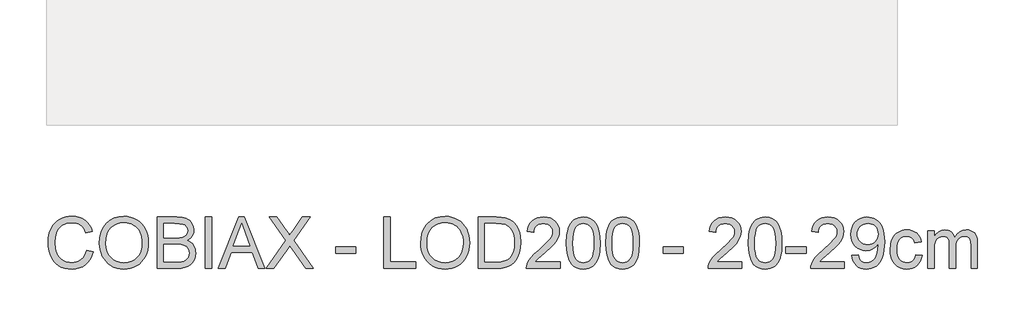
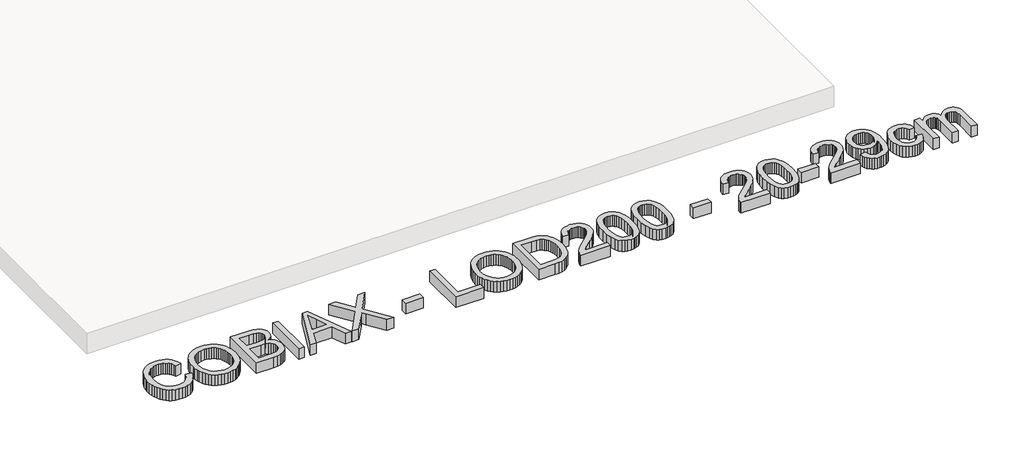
# One storey, part 2 of 6: 1 proxy.
"""IFC4 building model written with IfcOpenShell, lengths in millimetres."""

from ifc_helpers import new_model, si_unit, origin, origin_with_axes, place, context, project, spatial, polyline, outline, extrude, element, save

model = new_model("IFC4")

# Units and contexts
model_context = context("Model", 3, world=origin())
ifc_project = project(units=[si_unit("LENGTHUNIT", "METRE", prefix="MILLI")], contexts=[model_context])

# Site, building, storey
site = spatial("IfcSite", under=ifc_project)
building = spatial("IfcBuilding", under=site)
storey = spatial("IfcBuildingStorey", under=building, Name="COBIAX Slabs", Elevation=0.0)

# Proxy
placement = place(None, origin())
element("IfcBuildingElementProxy", 1, Name="600mm Arial", ObjectType="600mm Arial", at=placement, inside=storey, context=model_context, shape_type="SweptSolid", body=[
    extrude(outline(polyline([(-5201.7846047, -6620.9127725), (-5126.4423721, -6640.3369419), (-5141.35079, -6687.1913125), (-5161.2072206, -6728.13198), (-5186.0116642, -6763.1589445), (-5215.7641205, -6792.2722059), (-5249.7932051, -6815.1590645), (-5287.4275332, -6831.5068207), (-5328.6671048, -6841.3154744), (-5373.5119201, -6844.5850256), (-5419.4557827, -6842.1110192), (-5460.902288, -6834.6889999), (-5497.8514359, -6822.3189678), (-5530.3032264, -6805.0009229), (-5558.7037164, -6782.9923826), (-5583.4989629, -6756.5508642), (-5604.6889658, -6725.6763677), (-5622.2737252, -6690.3688932), (-5636.0830956, -6652.155151), (-5645.9469316, -6612.5618512), (-5651.8652332, -6571.588994), (-5653.8380004, -6529.2365793), (-5651.6077158, -6483.7939559), (-5644.916862, -6441.3495707), (-5633.765439, -6401.9034238), (-5618.1534469, -6365.4555151), (-5598.4303734, -6332.6082514), (-5574.9457065, -6303.9640396), (-5547.6994462, -6279.5228795), (-5516.6915926, -6259.2847713), (-5482.9752077, -6243.4152617), (-5447.6033539, -6232.0798977), (-5410.5760311, -6225.2786793), (-5371.8932393, -6223.0116065), (-5328.8004621, -6225.9454655), (-5289.2853373, -6234.7470422), (-5253.3478649, -6249.4163368), (-5220.9880449, -6269.9533491), (-5192.7393062, -6295.8154534), (-5169.1350776, -6326.4600236), (-5150.1753593, -6361.8870597), (-5135.8601512, -6402.0965618), (-5211.2023838, -6420.0492032), (-5223.0665781, -6390.420907), (-5237.3220054, -6365.1060272), (-5253.9686657, -6344.1045638), (-5273.006559, -6327.4165168), (-5294.5460498, -6314.7015953), (-5318.6975028, -6305.6195086), (-5345.4609179, -6300.1702565), (-5374.8362952, -6298.3538392), (-5408.6354535, -6300.3679931), (-5439.5467382, -6306.4104549), (-5467.5701492, -6316.4812245), (-5492.7056865, -6330.5803019), (-5514.6360519, -6348.0730908), (-5533.0439473, -6368.3249946), (-5547.9293725, -6391.3360134), (-5559.2923276, -6417.1061472), (-5573.6949077, -6472.2516583), (-5578.4957678, -6529.0894265), (-5572.8119909, -6598.6927), (-5565.7072699, -6629.9626696), (-5555.7606605, -6658.8781944), (-5542.8112142, -6684.8644589), (-5526.6979829, -6707.3466473), (-5507.4209663, -6726.3247597), (-5484.9801646, -6741.7987961), (-5460.4654281, -6753.8055448), (-5434.9666074, -6762.3817938), (-5408.4837022, -6767.5275432), (-5381.0167128, -6769.242793), (-5348.2614196, -6766.9067423), (-5318.1272857, -6759.8985903), (-5290.614311, -6748.218337), (-5265.7224955, -6731.8659823), (-5244.0404504, -6710.9151027), (-5226.1567869, -6685.4392745), (-5212.071505, -6655.4384978), (-5201.7846047, -6620.9127725)])), origin_with_axes(), (0.0, 0.0, 1.0), 150.0),
    extrude(outline(polyline([(-5051.1001395, -6541.7445672), (-5046.0785503, -6471.0468447), (-5031.0137825, -6408.4609203), (-5005.9058364, -6353.9867939), (-4989.5856714, -6329.7916549), (-4970.7547117, -6307.6244654), (-4927.6665331, -6270.6063397), (-4878.7474247, -6244.1648213), (-4823.9973868, -6228.2999102), (-4763.4164193, -6223.0116065), (-4722.8666263, -6225.49481), (-4684.3585785, -6232.9444204), (-4647.8922757, -6245.3604378), (-4613.467718, -6262.742862), (-4582.0505956, -6284.5674614), (-4554.6065988, -6310.310004), (-4531.1357275, -6339.9704899), (-4511.6379818, -6373.548919), (-4496.3156967, -6410.2819362), (-4485.3712073, -6449.4061864), (-4478.8045137, -6490.9216695), (-4476.6156158, -6534.8283857), (-4478.9194768, -6579.3145159), (-4485.8310598, -6621.3910191), (-4497.3503648, -6661.0578953), (-4513.4773917, -6698.3151443), (-4533.8304631, -6732.178682), (-4558.0279014, -6761.6644239), (-4586.0697064, -6786.7723701), (-4617.9558784, -6807.5025205), (-4652.4310198, -6823.7261165), (-4688.2397335, -6835.3143993), (-4725.3820195, -6842.267369), (-4763.8578777, -6844.5850256), (-4805.1158434, -6842.0236472), (-4844.129729, -6834.339512), (-4880.8995344, -6821.5326201), (-4915.4252597, -6803.6029713), (-4946.8055939, -6781.2449431), (-4974.1392261, -6755.1529126), (-4997.4261564, -6725.3268798), (-5016.6663847, -6691.7668448), (-5031.7311524, -6655.8201753), (-5042.4917008, -6618.8342393), (-5048.9480298, -6580.8090365), (-5051.1001395, -6541.7445672)]), holes=[polyline([(-4975.7579069, -6542.4803312), (-4971.9917149, -6592.4295091), (-4960.6931392, -6636.7684865), (-4941.8621795, -6675.4972636), (-4915.4988361, -6708.6158402), (-4883.4517158, -6735.140132), (-4847.5694257, -6754.0860548), (-4807.8519657, -6765.4536084), (-4764.299336, -6769.242793), (-4720.0017453, -6765.4168202), (-4679.8152359, -6753.938902), (-4643.7398077, -6734.8090382), (-4611.7754608, -6708.027229), (-4585.6052554, -6674.2096766), (-4566.9122515, -6633.9725834), (-4555.6964492, -6587.3159493), (-4551.9578484, -6534.2397745), (-4553.5581351, -6499.7600345), (-4558.3589951, -6467.5427687), (-4566.3604285, -6437.5879773), (-4577.5624353, -6409.8956601), (-4591.8408552, -6384.8291007), (-4609.0715282, -6362.7515824), (-4629.2544541, -6343.6631054), (-4652.3896331, -6327.5636696), (-4677.7596952, -6314.7843688), (-4704.6472705, -6305.6562968), (-4733.0523591, -6300.1794536), (-4762.9749609, -6298.3538392), (-4805.0146759, -6301.8717107), (-4844.0193644, -6312.4253255), (-4879.9890265, -6330.0146834), (-4912.9236621, -6354.6397844), (-4940.4136442, -6387.4870481), (-4960.0493457, -6429.7428937), (-4971.8307666, -6481.4073214), (-4975.7579069, -6542.4803312)])]), origin_with_axes(), (0.0, 0.0, 1.0), 150.0),
    extrude(outline(polyline([(-4373.020046, -6835.1672465), (-4373.020046, -6232.4293856), (-4143.0202226, -6232.4293856), (-4079.7629135, -6236.8623637), (-4030.3747557, -6250.1612978), (-4010.2975958, -6260.2182718), (-3992.5196984, -6272.6572818), (-3977.0410634, -6287.4783277), (-3963.8616909, -6304.6814095), (-3945.8170791, -6342.3525258), (-3939.8022085, -6381.7894757), (-3944.8605859, -6418.0810345), (-3960.0357182, -6452.2020895), (-3985.43797, -6482.0557135), (-4021.1777058, -6505.5449788), (-3998.438, -6515.2386694), (-3978.4850002, -6527.8386278), (-3961.3187066, -6543.3448538), (-3946.9391192, -6561.7573477), (-3935.576164, -6582.5150893), (-3927.4597675, -6605.0570585), (-3922.5899296, -6629.3832555), (-3920.9666503, -6655.4936801), (-3925.3996283, -6697.524198), (-3938.6985625, -6736.5012954), (-3958.5457961, -6769.6474632), (-3982.6236727, -6794.1851923), (-4012.1094146, -6811.9538926), (-4048.1802442, -6824.7929743), (-4092.013384, -6832.5736785), (-4144.7860562, -6835.1672465), (-4373.020046, -6835.1672465)]), holes=[polyline([(-4297.6778134, -6477.2916416), (-4160.0899472, -6477.2916416), (-4111.9709822, -6475.6729608), (-4079.7445194, -6470.8169185), (-4051.6199409, -6459.6516999), (-4031.4048253, -6442.9314633), (-4019.2095371, -6420.9137259), (-4015.1444411, -6393.8560051), (-4018.9336256, -6367.5892307), (-4030.3011793, -6344.7069706), (-4048.7320672, -6326.8462997), (-4073.7112547, -6315.6442929), (-4112.0445586, -6309.7397869), (-4170.5377958, -6307.7716182), (-4297.6778134, -6307.7716182), (-4297.6778134, -6477.2916416)]), polyline([(-4297.6778134, -6759.8250139), (-4143.1673754, -6759.8250139), (-4087.2493121, -6756.8819579), (-4061.2952374, -6750.3520525), (-4039.9396875, -6740.474421), (-4022.5756574, -6726.3293582), (-4008.5961416, -6706.9971594), (-3999.3806976, -6683.3423471), (-3996.3088829, -6656.2294441), (-3999.9141265, -6624.7387453), (-4010.7298571, -6597.6626304), (-4029.6205976, -6576.4910216), (-4057.4508705, -6562.7138409), (-4096.8694263, -6555.1538659), (-4150.5250153, -6552.6338742), (-4297.6778134, -6552.6338742), (-4297.6778134, -6759.8250139)])]), origin_with_axes(), (0.0, 0.0, 1.0), 150.0),
    extrude(outline(polyline([(-3807.9533014, -6835.1672465), (-3807.9533014, -6232.4293856), (-3732.6110688, -6232.4293856), (-3732.6110688, -6835.1672465), (-3807.9533014, -6835.1672465)])), origin_with_axes(), (0.0, 0.0, 1.0), 150.0),
    extrude(outline(polyline([(-3652.1184882, -6835.1672465), (-3411.5236634, -6232.4293856), (-3347.3650434, -6232.4293856), (-3106.7702186, -6835.1672465), (-3186.3798823, -6835.1672465), (-3255.3945446, -6646.811665), (-3503.641315, -6646.811665), (-3572.5088245, -6835.1672465), (-3652.1184882, -6835.1672465)]), holes=[polyline([(-3475.9765889, -6571.4694324), (-3282.9121179, -6571.4694324), (-3337.2115004, -6423.2865647), (-3379.4443534, -6307.7716182), (-3416.9683169, -6410.3371185), (-3475.9765889, -6571.4694324)])]), origin_with_axes(), (0.0, 0.0, 1.0), 150.0),
    extrude(outline(polyline([(-3092.2020916, -6835.1672465), (-2859.8478234, -6506.7222012), (-3054.5309753, -6232.4293856), (-2964.1791572, -6232.4293856), (-2854.5503227, -6386.7926708), (-2828.3939128, -6425.8985269), (-2817.6149704, -6446.9781652), (-2774.3520477, -6385.7626012), (-2665.9004356, -6232.4293856), (-2574.2242424, -6232.4293856), (-2768.9073942, -6507.605118), (-2536.5531261, -6835.1672465), (-2626.9049441, -6835.1672465), (-2781.7096876, -6616.7924942), (-2813.9361504, -6571.4694324), (-2849.3999748, -6621.2070781), (-3000.5258984, -6835.1672465), (-3092.2020916, -6835.1672465)])), origin_with_axes(), (0.0, 0.0, 1.0), 150.0),
    extrude(outline(polyline([(-2272.8553119, -6656.2294441), (-2272.8553119, -6580.8872115), (-2037.410835, -6580.8872115), (-2037.410835, -6656.2294441), (-2272.8553119, -6656.2294441)])), origin_with_axes(), (0.0, 0.0, 1.0), 150.0),
    extrude(outline(polyline([(-1707.7885673, -6835.1672465), (-1707.7885673, -6232.4293856), (-1632.4463347, -6232.4293856), (-1632.4463347, -6759.8250139), (-1331.0774043, -6759.8250139), (-1331.0774043, -6835.1672465), (-1707.7885673, -6835.1672465)])), origin_with_axes(), (0.0, 0.0, 1.0), 150.0),
    extrude(outline(polyline([(-1274.5707298, -6541.7445672), (-1269.5491406, -6471.0468447), (-1254.4843729, -6408.4609203), (-1229.3764267, -6353.9867939), (-1213.0562617, -6329.7916549), (-1194.2253021, -6307.6244654), (-1151.1371234, -6270.6063397), (-1102.2180151, -6244.1648213), (-1047.4679771, -6228.2999102), (-986.8870096, -6223.0116065), (-946.3372167, -6225.49481), (-907.8291688, -6232.9444204), (-871.362866, -6245.3604378), (-836.9383083, -6262.742862), (-805.5211859, -6284.5674614), (-778.0771891, -6310.310004), (-754.6063178, -6339.9704899), (-735.1085721, -6373.548919), (-719.786287, -6410.2819362), (-708.8417976, -6449.4061864), (-702.275104, -6490.9216695), (-700.0862061, -6534.8283857), (-702.3900671, -6579.3145159), (-709.3016501, -6621.3910191), (-720.8209551, -6661.0578953), (-736.947982, -6698.3151443), (-757.3010534, -6732.178682), (-781.4984917, -6761.6644239), (-809.5402967, -6786.7723701), (-841.4264687, -6807.5025205), (-875.9016102, -6823.7261165), (-911.7103239, -6835.3143993), (-948.8526098, -6842.267369), (-987.328468, -6844.5850256), (-1028.5864337, -6842.0236472), (-1067.6003193, -6834.339512), (-1104.3701247, -6821.5326201), (-1138.89585, -6803.6029713), (-1170.2761842, -6781.2449431), (-1197.6098164, -6755.1529126), (-1220.8967467, -6725.3268798), (-1240.1369751, -6691.7668448), (-1255.2017428, -6655.8201753), (-1265.9622911, -6618.8342393), (-1272.4186201, -6580.8090365), (-1274.5707298, -6541.7445672)]), holes=[polyline([(-1199.2284972, -6542.4803312), (-1195.4623053, -6592.4295091), (-1184.1637295, -6636.7684865), (-1165.3327699, -6675.4972636), (-1138.9694264, -6708.6158402), (-1106.9223061, -6735.140132), (-1071.040016, -6754.0860548), (-1031.3225561, -6765.4536084), (-987.7699264, -6769.242793), (-943.4723356, -6765.4168202), (-903.2858262, -6753.938902), (-867.210398, -6734.8090382), (-835.2460512, -6708.027229), (-809.0758457, -6674.2096766), (-790.3828418, -6633.9725834), (-779.1670395, -6587.3159493), (-775.4284387, -6534.2397745), (-777.0287254, -6499.7600345), (-781.8295855, -6467.5427687), (-789.8310189, -6437.5879773), (-801.0330256, -6409.8956601), (-815.3114455, -6384.8291007), (-832.5421185, -6362.7515824), (-852.7250445, -6343.6631054), (-875.8602234, -6327.5636696), (-901.2302855, -6314.7843688), (-928.1178608, -6305.6562968), (-956.5229494, -6300.1794536), (-986.4455512, -6298.3538392), (-1028.4852662, -6301.8717107), (-1067.4899547, -6312.4253255), (-1103.4596168, -6330.0146834), (-1136.3942524, -6354.6397844), (-1163.8842345, -6387.4870481), (-1183.519936, -6429.7428937), (-1195.3013569, -6481.4073214), (-1199.2284972, -6542.4803312)])]), origin_with_axes(), (0.0, 0.0, 1.0), 150.0),
    extrude(outline(polyline([(-596.4906363, -6835.1672465), (-596.4906363, -6232.4293856), (-388.5637326, -6232.4293856), (-326.4284636, -6234.5998894), (-280.9950372, -6241.1114007), (-232.9496487, -6257.8500315), (-192.4090528, -6284.2271705), (-170.0694186, -6305.7850555), (-150.7280227, -6330.1388435), (-134.3848651, -6357.2885348), (-121.0399457, -6387.2341292), (-110.6748705, -6419.6997153), (-103.2712454, -6454.4093815), (-97.3483452, -6530.5609545), (-101.358259, -6595.2530034), (-113.3880002, -6652.1827421), (-131.7085236, -6700.651195), (-154.5907837, -6739.9593862), (-180.9311345, -6770.9902325), (-209.6259302, -6794.6266507), (-242.5697628, -6812.1562277), (-281.6572248, -6824.8665507), (-326.9618925, -6832.5920726), (-378.5573423, -6835.1672465), (-596.4906363, -6835.1672465)]), holes=[polyline([(-521.1484037, -6759.8250139), (-387.8279686, -6759.8250139), (-332.6824575, -6757.1026871), (-290.8542747, -6748.9357069), (-259.2899995, -6735.8023196), (-234.9362114, -6718.1807721), (-208.7614075, -6685.5680332), (-189.0981148, -6643.3535742), (-176.7924621, -6591.3534542), (-172.6905778, -6529.3837321), (-174.7001332, -6485.6425629), (-180.7287994, -6447.2724708), (-190.7765764, -6414.2734558), (-204.8434642, -6386.645518), (-221.7890286, -6363.7632579), (-240.4728355, -6345.0012761), (-260.8948847, -6330.3595727), (-283.0551764, -6319.8381477), (-326.3916754, -6310.7882506), (-389.8881078, -6307.7716182), (-521.1484037, -6307.7716182), (-521.1484037, -6759.8250139)])]), origin_with_axes(), (0.0, 0.0, 1.0), 150.0),
    extrude(outline(polyline([(364.1228295, -6759.8250139), (364.1228295, -6835.1672465), (-31.4238917, -6835.1672465), (-29.7684227, -6808.6429547), (-23.3304878, -6783.2223088), (-4.752447, -6742.6265306), (22.4340324, -6703.2447631), (61.7606177, -6662.0235855), (116.758976, -6615.9095774), (198.0608969, -6543.6943417), (246.8420495, -6490.3882406), (261.0698856, -6468.6096265), (271.2326257, -6447.125318), (277.3302698, -6425.9353151), (279.3628178, -6405.0396178), (277.4452329, -6385.3809236), (271.6924782, -6367.3133192), (262.1045537, -6350.8368043), (248.6814594, -6335.9513791), (232.1681564, -6323.6227337), (213.3096056, -6314.8165584), (192.1058071, -6309.5328533), (168.5567609, -6307.7716182), (143.7477188, -6309.4914666), (121.559836, -6314.6510115), (101.9931124, -6323.2502532), (85.047548, -6335.2891915), (71.3393451, -6350.3631562), (61.4847062, -6368.0674772), (55.4836311, -6388.4021545), (53.33612, -6411.3671881), (-22.0061126, -6401.949409), (-15.526791, -6363.0550851), (-3.7407716, -6329.0719858), (13.3519456, -6300.0001111), (35.7513606, -6275.8394611), (62.9424386, -6256.8475531), (94.4101448, -6243.2819045), (130.1544791, -6235.1425153), (170.1754417, -6232.4293856), (210.5550892, -6235.446018), (246.4925616, -6244.4959151), (277.9878589, -6259.5790769), (305.0409811, -6280.6955034), (326.7690114, -6306.2816962), (342.2890331, -6334.7741567), (351.6010461, -6366.172885), (354.7050504, -6400.477881), (351.3573243, -6436.5119224), (341.3141458, -6471.9205645), (323.4902631, -6507.9362118), (296.8004244, -6545.7912691), (254.2548717, -6590.9855722), (188.863847, -6649.018957), (102.190849, -6721.49171), (68.1985526, -6759.8250139), (364.1228295, -6759.8250139)])), origin_with_axes(), (0.0, 0.0, 1.0), 150.0),
    extrude(outline(polyline([(439.4650621, -6538.6543584), (445.0016862, -6442.1773052), (451.9224662, -6401.2642288), (461.6115582, -6365.2347859), (474.0275756, -6333.7946709), (489.1291315, -6306.6495782), (506.9162259, -6283.7995077), (527.388859, -6265.2444596), (550.6160084, -6250.8878647), (576.6666522, -6240.6331541), (605.5407903, -6234.4803277), (637.2384227, -6232.4293856), (683.6651305, -6237.285428), (725.235796, -6251.853555), (760.0006445, -6275.5635496), (786.0099016, -6307.8451946), (805.6548001, -6348.4225787), (821.3265731, -6397.0197903), (831.5904808, -6458.731995), (835.0117833, -6538.6543584), (829.5303416, -6634.5795887), (822.6785395, -6675.3547093), (813.0860164, -6711.3381669), (800.7665681, -6742.7920775), (785.7339901, -6769.978557), (767.9882823, -6792.8976053), (747.5294449, -6811.5492224), (724.2747043, -6826.0023863), (698.141287, -6836.3260748), (669.1291932, -6842.5202879), (637.2384227, -6844.5850256), (595.7413337, -6840.9981761), (558.9531342, -6830.2376278), (526.8738242, -6812.3033805), (499.5034037, -6787.1954344), (473.2366293, -6741.8079932), (454.4746475, -6685.2553335), (443.2174585, -6617.5374552), (439.4650621, -6538.6543584)]), holes=[polyline([(514.8072947, -6538.5072056), (517.0145867, -6604.0039963), (523.6364626, -6657.0203904), (534.6729225, -6697.5563877), (550.1239663, -6725.6119884), (568.8123716, -6744.7004654), (589.5609162, -6758.3350918), (612.3695999, -6766.5158677), (637.2384227, -6769.242793), (662.1072456, -6766.5066706), (684.9159293, -6758.2983036), (705.6644738, -6744.6176919), (724.3528792, -6725.4648356), (739.803923, -6697.3632497), (750.8403828, -6656.8364494), (757.4622588, -6603.8844347), (759.6695507, -6538.5072056), (757.5358352, -6474.7440588), (751.1346884, -6422.6611653), (740.4661106, -6382.2585252), (725.5301016, -6353.5361384), (707.1543959, -6333.5141608), (686.1667281, -6319.2127483), (662.5670981, -6310.6319007), (636.3555059, -6307.7716182), (611.6154418, -6310.2916099), (589.1930342, -6317.8515849), (569.0882831, -6330.4515432), (551.3011887, -6348.0914849), (535.3351101, -6379.3614545), (523.9307682, -6421.5207311), (517.0881631, -6474.5693149), (514.8072947, -6538.5072056)])]), origin_with_axes(), (0.0, 0.0, 1.0), 150.0),
    extrude(outline(polyline([(900.9362369, -6538.6543584), (906.4728609, -6442.1773052), (913.3936409, -6401.2642288), (923.082733, -6365.2347859), (935.4987503, -6333.7946709), (950.6003062, -6306.6495782), (968.3874007, -6283.7995077), (988.8600337, -6265.2444596), (1012.0871832, -6250.8878647), (1038.137827, -6240.6331541), (1067.0119651, -6234.4803277), (1098.7095975, -6232.4293856), (1145.1363053, -6237.285428), (1186.7069707, -6251.853555), (1221.4718193, -6275.5635496), (1247.4810763, -6307.8451946), (1267.1259749, -6348.4225787), (1282.7977479, -6397.0197903), (1293.0616555, -6458.731995), (1296.4829581, -6538.6543584), (1291.0015164, -6634.5795887), (1284.1497142, -6675.3547093), (1274.5571912, -6711.3381669), (1262.2377429, -6742.7920775), (1247.2051648, -6769.978557), (1229.4594571, -6792.8976053), (1209.0006196, -6811.5492224), (1185.745879, -6826.0023863), (1159.6124618, -6836.3260748), (1130.6003679, -6842.5202879), (1098.7095975, -6844.5850256), (1057.2125084, -6840.9981761), (1020.4243089, -6830.2376278), (988.3449989, -6812.3033805), (960.9745785, -6787.1954344), (934.707804, -6741.8079932), (915.9458223, -6685.2553335), (904.6886332, -6617.5374552), (900.9362369, -6538.6543584)]), holes=[polyline([(976.2784695, -6538.5072056), (978.4857615, -6604.0039963), (985.1076374, -6657.0203904), (996.1440972, -6697.5563877), (1011.595141, -6725.6119884), (1030.2835464, -6744.7004654), (1051.0320909, -6758.3350918), (1073.8407746, -6766.5158677), (1098.7095975, -6769.242793), (1123.5784204, -6766.5066706), (1146.3871041, -6758.2983036), (1167.1356486, -6744.6176919), (1185.8240539, -6725.4648356), (1201.2750977, -6697.3632497), (1212.3115576, -6656.8364494), (1218.9334335, -6603.8844347), (1221.1407255, -6538.5072056), (1219.0070099, -6474.7440588), (1212.6058632, -6422.6611653), (1201.9372853, -6382.2585252), (1187.0012763, -6353.5361384), (1168.6255707, -6333.5141608), (1147.6379028, -6319.2127483), (1124.0382729, -6310.6319007), (1097.8266807, -6307.7716182), (1073.0866165, -6310.2916099), (1050.6642089, -6317.8515849), (1030.5594579, -6330.4515432), (1012.7723634, -6348.0914849), (996.8062848, -6379.3614545), (985.401943, -6421.5207311), (978.5593379, -6474.5693149), (976.2784695, -6538.5072056)])]), origin_with_axes(), (0.0, 0.0, 1.0), 150.0),
    extrude(outline(polyline([(1579.0163304, -6656.2294441), (1579.0163304, -6580.8872115), (1814.4608073, -6580.8872115), (1814.4608073, -6656.2294441), (1579.0163304, -6656.2294441)])), origin_with_axes(), (0.0, 0.0, 1.0), 150.0),
    extrude(outline(polyline([(2501.9586799, -6759.8250139), (2501.9586799, -6835.1672465), (2106.4119587, -6835.1672465), (2108.0674277, -6808.6429547), (2114.5053626, -6783.2223088), (2133.0834033, -6742.6265306), (2160.2698828, -6703.2447631), (2199.5964681, -6662.0235855), (2254.5948263, -6615.9095774), (2335.8967473, -6543.6943417), (2384.6778998, -6490.3882406), (2398.905736, -6468.6096265), (2409.0684761, -6447.125318), (2415.1661202, -6425.9353151), (2417.1986682, -6405.0396178), (2415.2810833, -6385.3809236), (2409.5283286, -6367.3133192), (2399.9404041, -6350.8368043), (2386.5173098, -6335.9513791), (2370.0040067, -6323.6227337), (2351.145456, -6314.8165584), (2329.9416575, -6309.5328533), (2306.3926113, -6307.7716182), (2281.5835692, -6309.4914666), (2259.3956864, -6314.6510115), (2239.8289627, -6323.2502532), (2222.8833983, -6335.2891915), (2209.1751955, -6350.3631562), (2199.3205566, -6368.0674772), (2193.3194815, -6388.4021545), (2191.1719704, -6411.3671881), (2115.8297378, -6401.949409), (2122.3090594, -6363.0550851), (2134.0950788, -6329.0719858), (2151.187796, -6300.0001111), (2173.587211, -6275.8394611), (2200.778289, -6256.8475531), (2232.2459951, -6243.2819045), (2267.9903295, -6235.1425153), (2308.011292, -6232.4293856), (2348.3909395, -6235.446018), (2384.3284119, -6244.4959151), (2415.8237092, -6259.5790769), (2442.8768315, -6280.6955034), (2464.6048618, -6306.2816962), (2480.1248835, -6334.7741567), (2489.4368965, -6366.172885), (2492.5409008, -6400.477881), (2489.1931747, -6436.5119224), (2479.1499962, -6471.9205645), (2461.3261135, -6507.9362118), (2434.6362748, -6545.7912691), (2392.090722, -6590.9855722), (2326.6996974, -6649.018957), (2240.0266993, -6721.49171), (2206.034403, -6759.8250139), (2501.9586799, -6759.8250139)])), origin_with_axes(), (0.0, 0.0, 1.0), 150.0),
    extrude(outline(polyline([(2577.3009125, -6538.6543584), (2582.8375365, -6442.1773052), (2589.7583166, -6401.2642288), (2599.4474086, -6365.2347859), (2611.8634259, -6333.7946709), (2626.9649818, -6306.6495782), (2644.7520763, -6283.7995077), (2665.2247093, -6265.2444596), (2688.4518588, -6250.8878647), (2714.5025026, -6240.6331541), (2743.3766407, -6234.4803277), (2775.0742731, -6232.4293856), (2821.5009809, -6237.285428), (2863.0716464, -6251.853555), (2897.8364949, -6275.5635496), (2923.845752, -6307.8451946), (2943.4906505, -6348.4225787), (2959.1624235, -6397.0197903), (2969.4263312, -6458.731995), (2972.8476337, -6538.6543584), (2967.366192, -6634.5795887), (2960.5143898, -6675.3547093), (2950.9218668, -6711.3381669), (2938.6024185, -6742.7920775), (2923.5698405, -6769.978557), (2905.8241327, -6792.8976053), (2885.3652953, -6811.5492224), (2862.1105546, -6826.0023863), (2835.9771374, -6836.3260748), (2806.9650436, -6842.5202879), (2775.0742731, -6844.5850256), (2733.5771841, -6840.9981761), (2696.7889845, -6830.2376278), (2664.7096746, -6812.3033805), (2637.3392541, -6787.1954344), (2611.0724797, -6741.8079932), (2592.3104979, -6685.2553335), (2581.0533089, -6617.5374552), (2577.3009125, -6538.6543584)]), holes=[polyline([(2652.6431451, -6538.5072056), (2654.8504371, -6604.0039963), (2661.472313, -6657.0203904), (2672.5087729, -6697.5563877), (2687.9598166, -6725.6119884), (2706.648222, -6744.7004654), (2727.3967665, -6758.3350918), (2750.2054502, -6766.5158677), (2775.0742731, -6769.242793), (2799.943096, -6766.5066706), (2822.7517797, -6758.2983036), (2843.5003242, -6744.6176919), (2862.1887296, -6725.4648356), (2877.6397734, -6697.3632497), (2888.6762332, -6656.8364494), (2895.2981091, -6603.8844347), (2897.5054011, -6538.5072056), (2895.3716855, -6474.7440588), (2888.9705388, -6422.6611653), (2878.301961, -6382.2585252), (2863.3659519, -6353.5361384), (2844.9902463, -6333.5141608), (2824.0025785, -6319.2127483), (2800.4029485, -6310.6319007), (2774.1913563, -6307.7716182), (2749.4512921, -6310.2916099), (2727.0288845, -6317.8515849), (2706.9241335, -6330.4515432), (2689.137039, -6348.0914849), (2673.1709604, -6379.3614545), (2661.7666186, -6421.5207311), (2654.9240135, -6474.5693149), (2652.6431451, -6538.5072056)])]), origin_with_axes(), (0.0, 0.0, 1.0), 150.0),
    extrude(outline(polyline([(3019.9365291, -6656.2294441), (3019.9365291, -6580.8872115), (3255.381006, -6580.8872115), (3255.381006, -6656.2294441), (3019.9365291, -6656.2294441)])), origin_with_axes(), (0.0, 0.0, 1.0), 150.0),
    extrude(outline(polyline([(3707.4344017, -6759.8250139), (3707.4344017, -6835.1672465), (3311.8876805, -6835.1672465), (3313.5431494, -6808.6429547), (3319.9810844, -6783.2223088), (3338.5591251, -6742.6265306), (3365.7456046, -6703.2447631), (3405.0721898, -6662.0235855), (3460.0705481, -6615.9095774), (3541.3724691, -6543.6943417), (3590.1536216, -6490.3882406), (3604.3814578, -6468.6096265), (3614.5441979, -6447.125318), (3620.641842, -6425.9353151), (3622.67439, -6405.0396178), (3620.7568051, -6385.3809236), (3615.0040504, -6367.3133192), (3605.4161259, -6350.8368043), (3591.9930316, -6335.9513791), (3575.4797285, -6323.6227337), (3556.6211778, -6314.8165584), (3535.4173793, -6309.5328533), (3511.868333, -6307.7716182), (3487.059291, -6309.4914666), (3464.8714082, -6314.6510115), (3445.3046845, -6323.2502532), (3428.3591201, -6335.2891915), (3414.6509173, -6350.3631562), (3404.7962784, -6368.0674772), (3398.7952033, -6388.4021545), (3396.6476922, -6411.3671881), (3321.3054595, -6401.949409), (3327.7847812, -6363.0550851), (3339.5708006, -6329.0719858), (3356.6635178, -6300.0001111), (3379.0629328, -6275.8394611), (3406.2540108, -6256.8475531), (3437.7217169, -6243.2819045), (3473.4660513, -6235.1425153), (3513.4870138, -6232.4293856), (3553.8666613, -6235.446018), (3589.8041337, -6244.4959151), (3621.299431, -6259.5790769), (3648.3525533, -6280.6955034), (3670.0805836, -6306.2816962), (3685.6006053, -6334.7741567), (3694.9126183, -6366.172885), (3698.0166226, -6400.477881), (3694.6688965, -6436.5119224), (3684.625718, -6471.9205645), (3666.8018353, -6507.9362118), (3640.1119966, -6545.7912691), (3597.5664438, -6590.9855722), (3532.1754192, -6649.018957), (3445.5024211, -6721.49171), (3411.5101248, -6759.8250139), (3707.4344017, -6759.8250139)])), origin_with_axes(), (0.0, 0.0, 1.0), 150.0),
    extrude(outline(polyline([(3792.1944134, -6684.4827813), (3867.536646, -6675.0650022), (3880.4125158, -6717.8312842), (3889.8854772, -6734.0962669), (3901.3817895, -6746.9491441), (3914.7726942, -6756.7026155), (3929.9294324, -6763.6693808), (3965.5404095, -6769.242793), (3997.4909608, -6765.6559435), (4026.5352443, -6754.8953952), (4050.6683032, -6738.1383703), (4067.8851806, -6716.5620913), (4080.9265973, -6688.1983894), (4092.5332742, -6651.0790961), (4100.7002545, -6608.4783611), (4103.4225813, -6563.6703341), (4102.9811229, -6548.9550543), (4076.8798953, -6580.8136351), (4042.7220521, -6606.0503399), (4002.9724025, -6622.4946651), (3960.095756, -6627.9761068), (3924.3054364, -6624.6283807), (3891.3937934, -6614.5852022), (3861.360827, -6597.8465714), (3834.2065372, -6574.4124883), (3811.7059547, -6545.5061606), (3795.63411, -6512.3507958), (3785.9910032, -6474.9463939), (3782.7766343, -6433.292955), (3786.1473531, -6390.2507616), (3796.2595094, -6351.6231521), (3813.1131033, -6317.4101265), (3836.7081348, -6287.6116849), (3865.3799378, -6263.469429), (3897.4638463, -6246.2249604), (3932.9598603, -6235.8782793), (3971.8679798, -6232.4293856), (4000.5949651, -6234.3975543), (4028.0619546, -6240.3020603), (4054.2689482, -6250.1429037), (4079.215946, -6263.9200844), (4102.070615, -6281.3392969), (4122.000622, -6302.1062355), (4139.0059673, -6326.2209003), (4153.0866506, -6353.6832912), (4164.127709, -6386.0753009), (4172.0141793, -6424.9788219), (4176.7460615, -6470.3938542), (4178.3233555, -6522.3203978), (4176.75066, -6576.8543051), (4172.0325734, -6625.5296916), (4164.1690957, -6668.3465573), (4153.160227, -6705.3049022), (4139.047354, -6737.3060373), (4121.8718633, -6765.2512733), (4101.6337551, -6789.1406104), (4078.3330292, -6808.9740485), (4052.4387353, -6824.553851), (4024.4199228, -6835.6822813), (3994.2765918, -6842.3593395), (3962.0087423, -6844.5850256), (3928.1727958, -6841.9592679), (3897.592605, -6834.0819946), (3870.2681698, -6820.9532059), (3846.1994903, -6802.5729018), (3825.9935717, -6779.4377228), (3810.2574193, -6752.0443097), (3798.9910332, -6720.3926626), (3792.1944134, -6684.4827813)]), holes=[polyline([(4102.9811229, -6431.5271214), (4100.9485749, -6404.524583), (4094.8509308, -6380.4651005), (4084.6881907, -6359.348674), (4070.4603545, -6341.1753034), (4052.8663981, -6326.5611911), (4032.6052972, -6316.1225395), (4009.6770519, -6309.8593486), (3984.0816621, -6307.7716182), (3957.6677348, -6310.0202969), (3933.7554051, -6316.766333), (3912.344673, -6328.0097265), (3893.4355384, -6343.7504774), (3877.9844946, -6363.0688806), (3866.9480348, -6385.0452313), (3860.3261589, -6409.6795294), (3858.1188669, -6436.9717749), (3860.2065972, -6461.4497232), (3866.4697882, -6483.5272414), (3876.9084398, -6503.2043297), (3891.5225521, -6520.4809878), (3909.7051197, -6534.5478756), (3930.8491374, -6544.5956526), (3954.9546051, -6550.6243188), (3982.0215229, -6552.6338742), (4007.2628263, -6550.6243188), (4030.158882, -6544.5956526), (4050.7096899, -6534.5478756), (4068.9152501, -6520.4809878), (4083.8190695, -6502.8640388), (4094.4646547, -6482.1660781), (4100.8520059, -6458.3871056), (4102.9811229, -6431.5271214)])]), origin_with_axes(), (0.0, 0.0, 1.0), 150.0),
    extrude(outline(polyline([(4545.6167395, -6675.0650022), (4620.9589721, -6684.4827813), (4612.7644007, -6720.0339776), (4599.9529102, -6751.4924867), (4582.5245007, -6778.8583086), (4560.4791721, -6802.1314434), (4534.7458265, -6820.7048856), (4506.253366, -6833.97163), (4475.0017905, -6841.9316767), (4440.9911001, -6844.5850256), (4398.7352544, -6840.883213), (4360.8480074, -6829.7777753), (4327.3293591, -6811.2687124), (4298.1793095, -6785.3560244), (4274.5842781, -6752.5271548), (4257.7306842, -6713.2695474), (4247.6185278, -6667.5832021), (4244.247809, -6615.468119), (4250.0051623, -6548.4216254), (4257.2018538, -6518.2507033), (4267.2772219, -6490.3146642), (4280.3002446, -6465.1745284), (4296.3398996, -6443.3913158), (4315.3961869, -6424.9650263), (4337.4691066, -6409.8956601), (4361.5607788, -6398.1786186), (4386.6733235, -6389.8093032), (4412.8067407, -6384.7877139), (4439.9610305, -6383.1138508), (4473.3877083, -6385.4131133), (4503.6230097, -6392.3109007), (4530.6669349, -6403.8072131), (4554.5194838, -6419.9020504), (4574.7759861, -6440.2275306), (4591.0317718, -6464.4157718), (4603.2868408, -6492.4667739), (4611.541193, -6524.380537), (4536.1989604, -6533.7983161), (4522.5321443, -6500.9280598), (4501.2501709, -6477.365218), (4473.5302625, -6463.1833671), (4440.5496417, -6458.4560835), (4414.9496533, -6460.7829371), (4391.8604596, -6467.7634979), (4371.2820605, -6479.397766), (4353.214456, -6495.6857414), (4338.5037747, -6517.004503), (4327.9961452, -6543.7311299), (4321.6915676, -6575.8656222), (4319.5900417, -6613.4079798), (4321.6455823, -6651.515956), (4327.8122042, -6684.0229288), (4338.0899075, -6710.9288982), (4352.478692, -6732.2338643), (4370.1876116, -6748.4252706), (4390.4257198, -6759.9905608), (4413.1930168, -6766.9297349), (4438.4895025, -6769.242793), (4477.5033881, -6763.4670457), (4494.3753761, -6756.2473615), (4509.4907276, -6746.1398037), (4522.4263782, -6733.0340076), (4532.7592638, -6716.8196087), (4540.4893842, -6697.4966069), (4545.6167395, -6675.0650022)])), origin_with_axes(), (0.0, 0.0, 1.0), 150.0),
    extrude(outline(polyline([(4686.8834256, -6835.1672465), (4686.8834256, -6392.5316299), (4762.2256583, -6392.5316299), (4762.2256583, -6465.372265), (4784.8871892, -6431.9133975), (4814.0234432, -6405.7018054), (4848.6411389, -6388.7608395), (4887.746995, -6383.1138508), (4929.6487543, -6388.8712041), (4947.481834, -6396.0678956), (4963.2363804, -6406.1432637), (4988.3259325, -6433.7895957), (5004.7334695, -6470.6697657), (5032.1958604, -6432.364053), (5063.5210123, -6405.0028296), (5098.7089251, -6388.5860955), (5137.7595989, -6383.1138508), (5167.921324, -6385.3901207), (5194.3950321, -6392.2189302), (5217.1807232, -6403.6002795), (5236.2783972, -6419.5341684), (5251.3753546, -6440.204538), (5262.1588956, -6465.7953293), (5268.6290202, -6496.3065422), (5270.7857284, -6531.7381769), (5270.7857284, -6835.1672465), (5195.4434958, -6835.1672465), (5195.4434958, -6564.1117925), (5193.6960563, -6526.5326467), (5188.4537379, -6501.2039713), (5178.6312886, -6483.8583352), (5163.1434566, -6470.2283073), (5143.2226466, -6461.3991394), (5120.1012632, -6458.4560835), (5098.7503119, -6460.3414787), (5079.2847558, -6465.9976644), (5061.704595, -6475.4246405), (5046.0098293, -6488.6224071), (5033.1017698, -6505.9772402), (5023.8817273, -6527.875416), (5018.3497018, -6554.3169344), (5016.5056933, -6585.3017954), (5016.5056933, -6835.1672465), (4941.1634607, -6835.1672465), (4941.1634607, -6555.724083), (4936.8040591, -6513.1233479), (4931.354807, -6496.4031113), (4923.7258541, -6482.7362951), (4913.6136978, -6472.1137025), (4900.7148353, -6464.5261364), (4885.0292668, -6459.9735967), (4866.5569921, -6458.4560835), (4837.5311027, -6462.5027854), (4810.7860816, -6474.6428912), (4788.7131619, -6494.5820954), (4773.7035765, -6522.0260922), (4765.0951378, -6560.1018787), (4762.2256583, -6611.9364518), (4762.2256583, -6835.1672465), (4686.8834256, -6835.1672465)])), origin_with_axes(), (0.0, 0.0, 1.0), 150.0),
])

save(model, "model.ifc")
